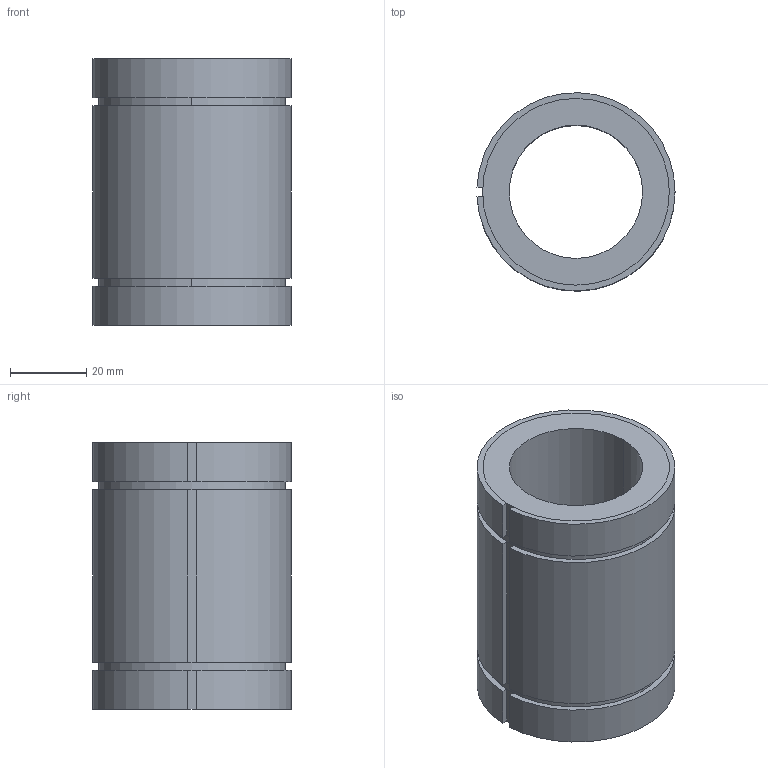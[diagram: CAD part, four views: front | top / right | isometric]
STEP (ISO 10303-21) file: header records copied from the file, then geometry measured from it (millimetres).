
FILE_DESCRIPTION((''),'2;1');
FILE_NAME('C:\Documents and Settings\ｿﾀﾀ蠑ｷ1\ｹﾙﾅﾁ ﾈｭｸ饅\ｺﾎﾇｰﾆﾄﾀﾏ\ﾁｦﾇｰ\LM__UUAJ\LM35UUAJ.stp','2005-06-14T16:26:55',('ｿﾀﾀ蠑ｷ1'),(''),'Autodesk Inventor 9','Autodesk Inventor 9','');
FILE_SCHEMA(('AUTOMOTIVE_DESIGN { 1 0 10303 214 1 1 1 1 }'));
Length unit declared in the file: millimetre
Products named in the file (1): LM__AJ
Bounding box: 51.97 x 51.98 x 70 mm (x, y, z)
Volume: 80067.7 mm3; surface area: 22538.9 mm2
Topology: 1 solids, 1 shells, 29 faces, 76 edges, 49 vertices
Faces by surface type: plane 17, cylinder 12
Entity records: 928 total; most frequent: DIRECTION 167, CARTESIAN_POINT 155, ORIENTED_EDGE 152, EDGE_CURVE 76, AXIS2_PLACEMENT_3D 61, VERTEX_POINT 49, VECTOR 45, LINE 45
